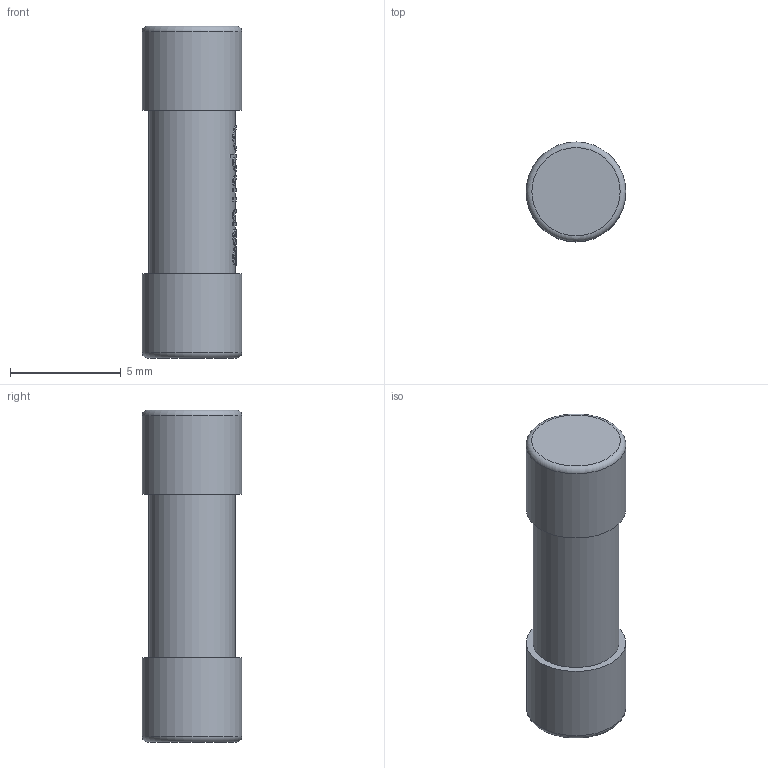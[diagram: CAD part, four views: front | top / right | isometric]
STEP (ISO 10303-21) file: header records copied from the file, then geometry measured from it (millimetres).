
FILE_DESCRIPTION(/* description */ (''),/* implementation_level */ '2;1');
FILE_NAME(/* name */ 'C:\Users\Hani\Desktop\work\TSE\TSE.stp',/* time_stamp */ '2021-08-22T18:04:11-07:00',/* author */ ('Hani'),/* organization */ (''),/* preprocessor_version */ 'ST-DEVELOPER v17',/* originating_system */ 'Autodesk Inventor 2019',/* authorisation */ '');
FILE_SCHEMA (('AUTOMOTIVE_DESIGN { 1 0 10303 214 3 1 1 }'));
Length unit declared in the file: inch
Products named in the file (1): FSD
Bounding box: 4.5 x 4.5 x 15 mm (x, y, z)
Volume: 208.5 mm3; surface area: 236.6 mm2
Topology: 1 solids, 1 shells, 146 faces, 412 edges, 274 vertices
Faces by surface type: bspline 67, plane 61, cylinder 16, torus 2
Full cylindrical faces by diameter (mm): 3.886 x1, 4.5 x2
Entity records: 6203 total; most frequent: CARTESIAN_POINT 2746, ORIENTED_EDGE 824, DIRECTION 514, EDGE_CURVE 412, VERTEX_POINT 274, LINE 188, VECTOR 188, AXIS2_PLACEMENT_3D 163
